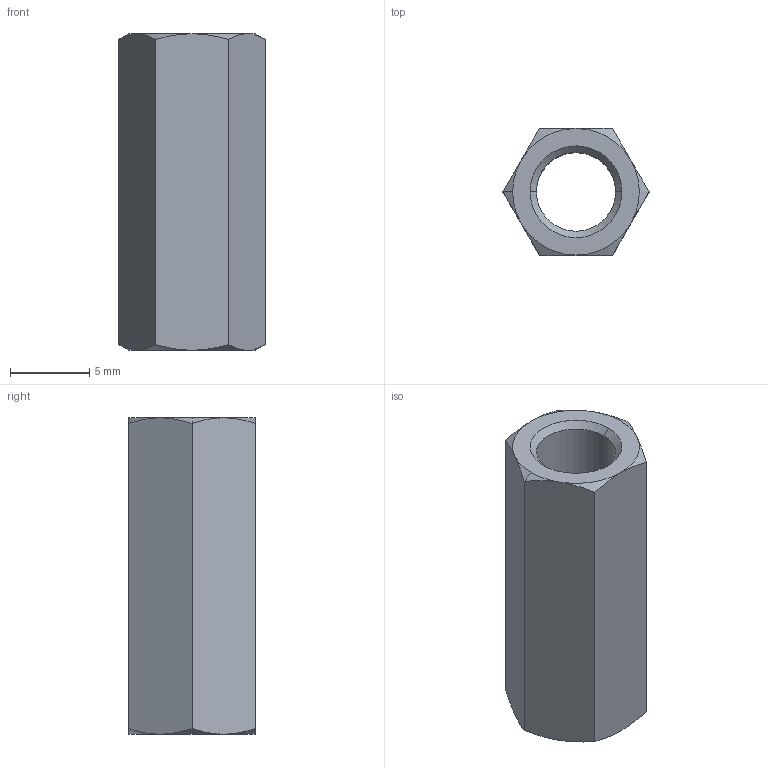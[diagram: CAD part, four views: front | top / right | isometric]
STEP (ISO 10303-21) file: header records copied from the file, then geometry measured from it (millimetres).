
FILE_DESCRIPTION (( 'STEP AP203' ), '1' );
FILE_NAME ('N0503.050-020-NP.step', '2025-02-27T14:44:27', ( '' ), ( '' ), 'SwSTEP 2.0', 'SolidWorks 2019', '' );
FILE_SCHEMA (( 'CONFIG_CONTROL_DESIGN' ));
Length unit declared in the file: millimetre
Products named in the file (1): N0503.050-020-NP
Bounding box: 9.24 x 8 x 20 mm (x, y, z)
Volume: 712.1 mm3; surface area: 927.9 mm2
Topology: 1 solids, 1 shells, 28 faces, 60 edges, 34 vertices
Faces by surface type: cone 18, plane 8, cylinder 2
Entity records: 875 total; most frequent: CARTESIAN_POINT 223, ORIENTED_EDGE 120, DIRECTION 116, EDGE_CURVE 60, AXIS2_PLACEMENT_3D 51, VERTEX_POINT 34, EDGE_LOOP 30, FACE_OUTER_BOUND 28
